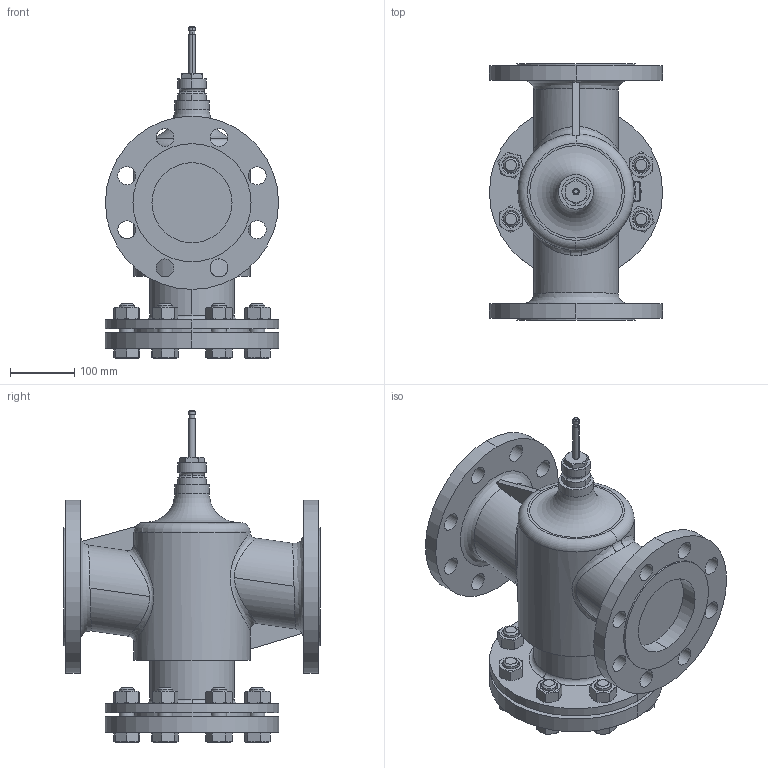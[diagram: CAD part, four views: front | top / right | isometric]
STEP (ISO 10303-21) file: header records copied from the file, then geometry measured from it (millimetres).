
FILE_DESCRIPTION(/* description */ (''),/* implementation_level */ '2;1');
FILE_NAME(/* name */ 'RAS_021849_00.stp',/* time_stamp */ '2012-11-07T08:29:28+01:00',/* author */ (''),/* organization */ (''),/* preprocessor_version */ 'ST-DEVELOPER v11',/* originating_system */ 'SIEMENS UGS NX 6.0',/* authorisation */ '');
FILE_SCHEMA (('AUTOMOTIVE_DESIGN { 1 0 10303 214 1 1 1 1 }'));
Length unit declared in the file: millimetre
Products named in the file (1): RontB30C3t78
Bounding box: 270 x 400 x 517.5 mm (x, y, z)
Volume: 13671599.7 mm3; surface area: 877241.2 mm2
Topology: 17 solids, 19 shells, 496 faces, 1131 edges, 705 vertices
Faces by surface type: plane 190, cone 174, cylinder 109, torus 11, bspline 10, sphere 2
Full cylindrical faces by diameter (mm): 21.564 x8, 23.577 x8, 28 x32, 33.5 x8, 54 x1
Entity records: 16860 total; most frequent: CARTESIAN_POINT 6603, ORIENTED_EDGE 2006, DIRECTION 1972, EDGE_CURVE 1003, AXIS2_PLACEMENT_3D 898, EDGE_LOOP 694, VERTEX_POINT 663, ADVANCED_FACE 496
